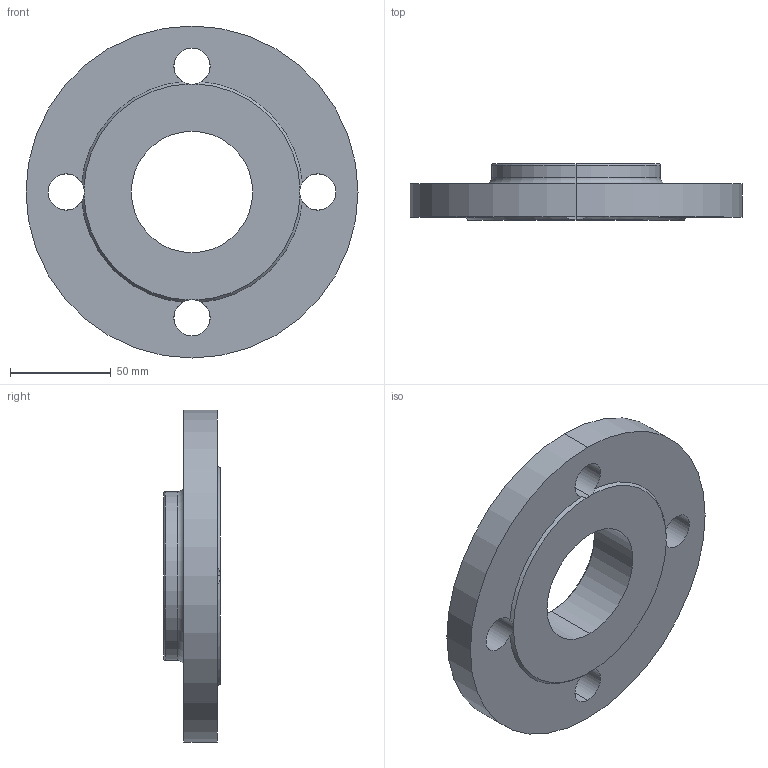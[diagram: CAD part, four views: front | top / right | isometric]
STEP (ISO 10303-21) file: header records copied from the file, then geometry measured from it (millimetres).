
FILE_DESCRIPTION (( 'STEP AP203' ), '1' );
FILE_NAME ('3D_R193_PN10-40_DN50_176624270_176624700.STEP', '2024-07-09T16:18:52', ( '' ), ( '' ), 'SwSTEP 2.0', 'SolidWorks 2024', '' );
FILE_SCHEMA (( 'CONFIG_CONTROL_DESIGN' ));
Length unit declared in the file: millimetre
Products named in the file (1): 3D_R193_PN10-40_DN50_176624270_176624700
Bounding box: 165 x 28 x 165 mm (x, y, z)
Volume: 325741.7 mm3; surface area: 54949.6 mm2
Topology: 1 solids, 1 shells, 28 faces, 78 edges, 50 vertices
Faces by surface type: cylinder 14, cone 6, torus 4, plane 4
Entity records: 1049 total; most frequent: CARTESIAN_POINT 197, DIRECTION 182, ORIENTED_EDGE 156, AXIS2_PLACEMENT_3D 83, EDGE_CURVE 78, CIRCLE 54, VERTEX_POINT 50, EDGE_LOOP 36
